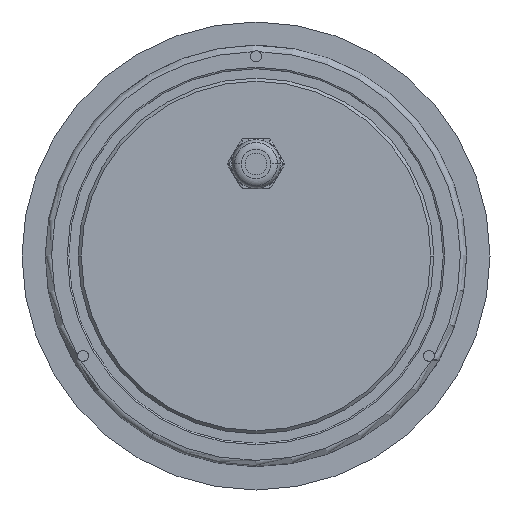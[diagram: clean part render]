
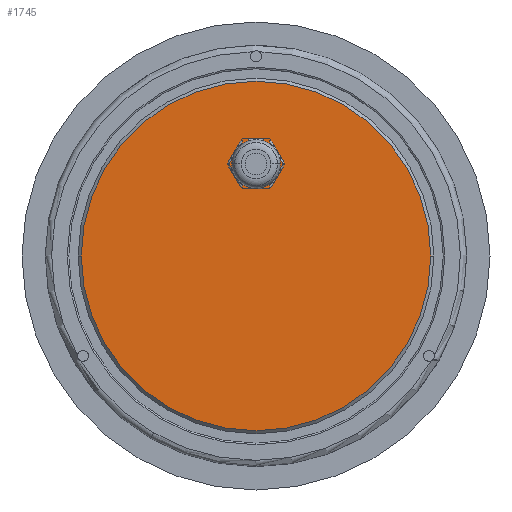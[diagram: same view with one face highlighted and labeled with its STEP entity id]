
A CAD part, front view. The second image highlights one B-rep face of the part: STEP entity #1745.
In plain terms, the highlighted planar face has unit normal (0, -1, 0).
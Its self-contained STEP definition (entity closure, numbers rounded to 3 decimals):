
#1156=CARTESIAN_POINT('',(0.,-58.5,29.5));
#1157=DIRECTION('',(0.,1.,0.));
#1158=DIRECTION('',(0.,0.,-1.));
#1159=AXIS2_PLACEMENT_3D('',#1156,#1157,#1158);
#1161=CARTESIAN_POINT('',(0.,-58.5,29.5));
#1162=DIRECTION('',(0.,1.,0.));
#1163=DIRECTION('',(0.,0.,1.));
#1164=AXIS2_PLACEMENT_3D('',#1161,#1162,#1163);
#1166=CARTESIAN_POINT('',(0.,-58.5,0.));
#1167=DIRECTION('',(0.,1.,0.));
#1168=DIRECTION('',(1.,0.,0.));
#1169=AXIS2_PLACEMENT_3D('',#1166,#1167,#1168);
#1171=CARTESIAN_POINT('',(0.,-58.5,0.));
#1172=DIRECTION('',(0.,1.,0.));
#1173=DIRECTION('',(-1.,0.,0.));
#1174=AXIS2_PLACEMENT_3D('',#1171,#1172,#1173);
#1700=CARTESIAN_POINT('',(0.,-58.5,23.5));
#1701=CARTESIAN_POINT('',(0.,-58.5,35.5));
#1702=VERTEX_POINT('',#1700);
#1703=VERTEX_POINT('',#1701);
#1712=CARTESIAN_POINT('',(56.,-58.5,0.));
#1713=CARTESIAN_POINT('',(-56.,-58.5,0.));
#1714=VERTEX_POINT('',#1712);
#1715=VERTEX_POINT('',#1713);
#1728=CARTESIAN_POINT('',(0.,-58.5,0.));
#1729=DIRECTION('',(0.,1.,0.));
#1730=DIRECTION('',(1.,0.,0.));
#1731=AXIS2_PLACEMENT_3D('',#1728,#1729,#1730);
#1732=PLANE('',#1731);
#1734=ORIENTED_EDGE('',*,*,#1733,.T.);
#1736=ORIENTED_EDGE('',*,*,#1735,.T.);
#1737=EDGE_LOOP('',(#1734,#1736));
#1738=FACE_OUTER_BOUND('',#1737,.F.);
#1740=ORIENTED_EDGE('',*,*,#1739,.F.);
#1742=ORIENTED_EDGE('',*,*,#1741,.F.);
#1743=EDGE_LOOP('',(#1740,#1742));
#1744=FACE_BOUND('',#1743,.F.);
#1745=ADVANCED_FACE('',(#1738,#1744),#1732,.F.);
#1160=CIRCLE('',#1159,6.);
#1165=CIRCLE('',#1164,6.);
#1170=CIRCLE('',#1169,56.);
#1175=CIRCLE('',#1174,56.);
#1733=EDGE_CURVE('',#1714,#1715,#1170,.T.);
#1735=EDGE_CURVE('',#1715,#1714,#1175,.T.);
#1739=EDGE_CURVE('',#1702,#1703,#1160,.T.);
#1741=EDGE_CURVE('',#1703,#1702,#1165,.T.);
